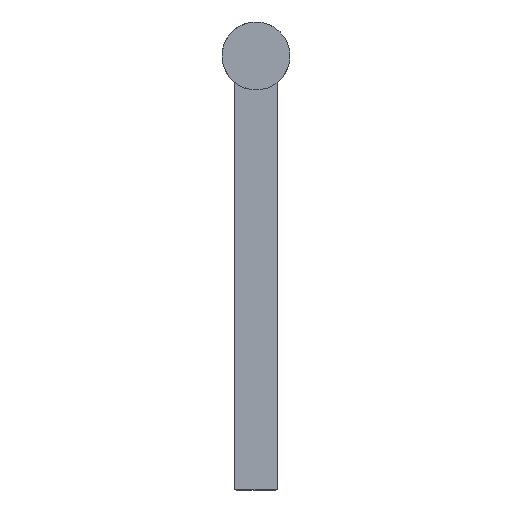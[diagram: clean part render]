
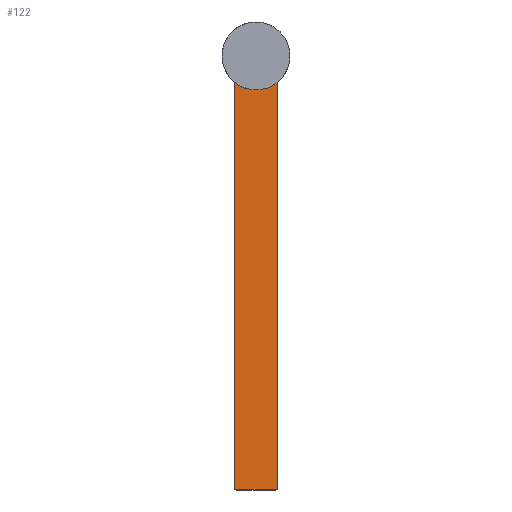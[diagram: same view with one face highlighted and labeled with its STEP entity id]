
A CAD part, top view. The second image highlights one B-rep face of the part: STEP entity #122.
In plain terms, the highlighted planar face has unit normal (0, 0, 1).
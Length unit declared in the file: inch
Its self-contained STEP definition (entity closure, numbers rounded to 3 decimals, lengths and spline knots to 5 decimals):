
#95=PLANE('',#520);
#107=FACE_OUTER_BOUND('',#213,.T.);
#122=ADVANCED_FACE('',(#107),#95,.F.);
#213=EDGE_LOOP('',(#342,#343,#344,#345));
#263=LINE('',#778,#280);
#264=LINE('',#780,#281);
#267=LINE('',#786,#284);
#280=VECTOR('',#599,1.);
#281=VECTOR('',#602,1.);
#284=VECTOR('',#607,1.);
#291=CIRCLE('',#508,1.0025);
#342=ORIENTED_EDGE('',*,*,#457,.F.);
#343=ORIENTED_EDGE('',*,*,#468,.F.);
#344=ORIENTED_EDGE('',*,*,#472,.F.);
#345=ORIENTED_EDGE('',*,*,#469,.T.);
#417=VERTEX_POINT('',#752);
#418=VERTEX_POINT('',#754);
#426=VERTEX_POINT('',#777);
#427=VERTEX_POINT('',#781);
#457=EDGE_CURVE('',#417,#418,#291,.T.);
#468=EDGE_CURVE('',#426,#417,#263,.T.);
#469=EDGE_CURVE('',#427,#418,#264,.T.);
#472=EDGE_CURVE('',#427,#426,#267,.T.);
#508=AXIS2_PLACEMENT_3D('',#753,#573,#574);
#520=AXIS2_PLACEMENT_3D('',#787,#608,#609);
#573=DIRECTION('',(0.,0.,1.));
#574=DIRECTION('',(-1.,0.,0.));
#599=DIRECTION('',(0.,1.,0.));
#602=DIRECTION('',(0.,1.,0.));
#607=DIRECTION('',(-1.,0.,0.));
#608=DIRECTION('',(0.,0.,-1.));
#609=DIRECTION('',(-1.,0.,0.));
#752=CARTESIAN_POINT('',(-0.625,-0.78382,0.));
#753=CARTESIAN_POINT('',(0.,0.,0.));
#754=CARTESIAN_POINT('',(0.625,-0.78382,0.));
#777=CARTESIAN_POINT('',(-0.625,-12.8125,0.));
#778=CARTESIAN_POINT('',(-0.625,-12.8125,0.));
#780=CARTESIAN_POINT('',(0.625,-12.8125,0.));
#781=CARTESIAN_POINT('',(0.625,-12.8125,0.));
#786=CARTESIAN_POINT('',(1.,-12.8125,0.));
#787=CARTESIAN_POINT('',(1.,-12.8125,0.));
